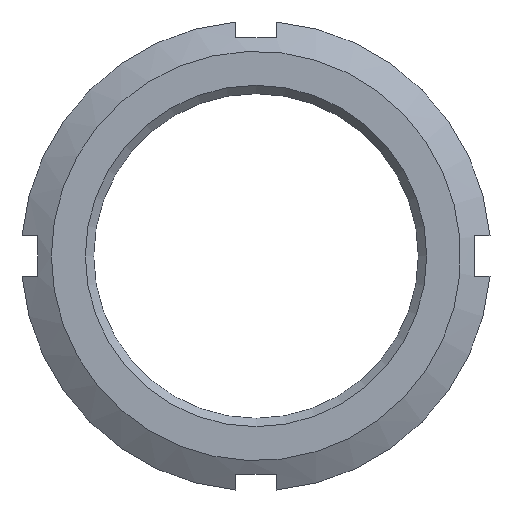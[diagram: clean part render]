
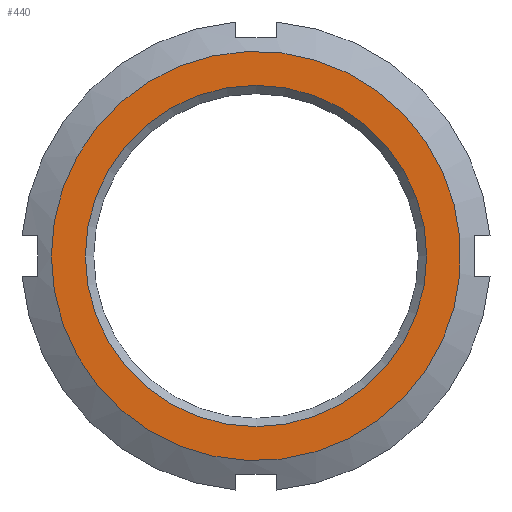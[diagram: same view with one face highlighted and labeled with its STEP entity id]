
A CAD part, left-side view. The second image highlights one B-rep face of the part: STEP entity #440.
In plain terms, the highlighted planar face has unit normal (-1, 0, 0).
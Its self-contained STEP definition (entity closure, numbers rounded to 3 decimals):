
#95=PLANE('',#471);
#116=FACE_BOUND('',#151,.T.);
#122=FACE_OUTER_BOUND('',#150,.T.);
#150=EDGE_LOOP('',(#309));
#151=EDGE_LOOP('',(#310));
#179=CIRCLE('',#468,25.438);
#181=CIRCLE('',#472,30.5);
#196=VERTEX_POINT('',#629);
#198=VERTEX_POINT('',#635);
#241=EDGE_CURVE('',#196,#196,#179,.T.);
#243=EDGE_CURVE('',#198,#198,#181,.T.);
#309=ORIENTED_EDGE('',*,*,#243,.F.);
#310=ORIENTED_EDGE('',*,*,#241,.F.);
#440=ADVANCED_FACE('',(#122,#116),#95,.T.);
#468=AXIS2_PLACEMENT_3D('',#630,#515,#516);
#471=AXIS2_PLACEMENT_3D('',#634,#521,#522);
#472=AXIS2_PLACEMENT_3D('',#636,#523,#524);
#515=DIRECTION('center_axis',(-1.,0.,0.));
#516=DIRECTION('ref_axis',(0.,0.,-1.));
#521=DIRECTION('center_axis',(-1.,0.,0.));
#522=DIRECTION('ref_axis',(0.,0.,1.));
#523=DIRECTION('center_axis',(1.,0.,0.));
#524=DIRECTION('ref_axis',(0.,-1.,0.));
#629=CARTESIAN_POINT('',(0.,0.,25.438));
#630=CARTESIAN_POINT('Origin',(0.,0.,0.));
#634=CARTESIAN_POINT('Origin',(0.,17.5,0.));
#635=CARTESIAN_POINT('',(0.,30.5,0.));
#636=CARTESIAN_POINT('Origin',(0.,0.,0.));
